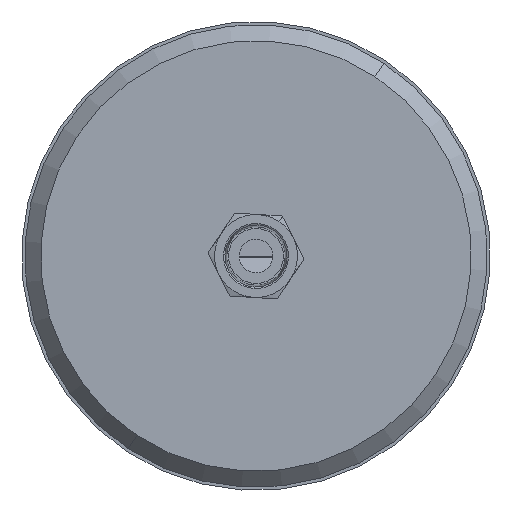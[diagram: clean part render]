
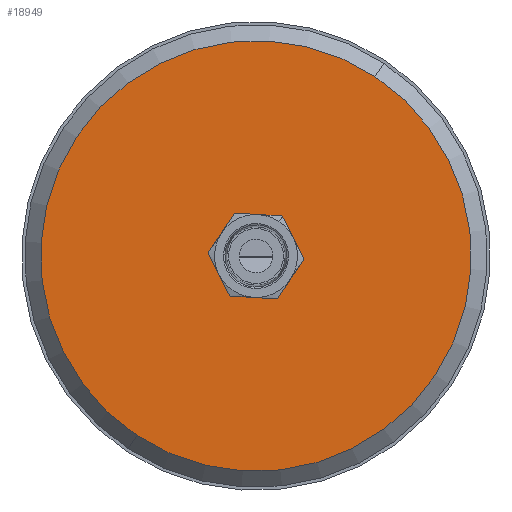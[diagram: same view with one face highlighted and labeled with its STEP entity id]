
A CAD part, front view. The second image highlights one B-rep face of the part: STEP entity #18949.
In plain terms, the highlighted planar face has unit normal (0, -1, 0).
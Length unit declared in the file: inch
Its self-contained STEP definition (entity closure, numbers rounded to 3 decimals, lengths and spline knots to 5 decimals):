
#105 = DIRECTION ( 'NONE',  ( 0., 1., 0. ) ) ;
#511 = FACE_OUTER_BOUND ( 'NONE', #8793, .T. ) ;
#806 = EDGE_CURVE ( 'NONE', #6881, #26879, #1929, .T. ) ;
#1145 = CARTESIAN_POINT ( 'NONE',  ( 1.55757, -3.22375, 0.5553 ) ) ;
#1929 = CIRCLE ( 'NONE', #11953, 0.4615 ) ;
#2160 = EDGE_CURVE ( 'NONE', #26879, #6881, #2899, .T. ) ;
#2267 = DIRECTION ( 'NONE',  ( 0.552, 0., 0.834 ) ) ;
#2899 = CIRCLE ( 'NONE', #19862, 0.4615 ) ;
#4476 = ORIENTED_EDGE ( 'NONE', *, *, #806, .F. ) ;
#5296 = DIRECTION ( 'NONE',  ( 0., -1., 0. ) ) ;
#5338 = AXIS2_PLACEMENT_3D ( 'NONE', #25560, #105, #2267 ) ;
#5415 = EDGE_CURVE ( 'NONE', #10301, #11101, #14854, .T. ) ;
#6881 = VERTEX_POINT ( 'NONE', #18013 ) ;
#7464 = AXIS2_PLACEMENT_3D ( 'NONE', #12090, #7881, #18608 ) ;
#7881 = DIRECTION ( 'NONE',  ( 0., -1., 0. ) ) ;
#8793 = EDGE_LOOP ( 'NONE', ( #22177, #12295 ) ) ;
#9417 = DIRECTION ( 'NONE',  ( -0.552, 0., -0.834 ) ) ;
#10301 = VERTEX_POINT ( 'NONE', #25531 ) ;
#10873 = ORIENTED_EDGE ( 'NONE', *, *, #2160, .F. ) ;
#11101 = VERTEX_POINT ( 'NONE', #20510 ) ;
#11399 = DIRECTION ( 'NONE',  ( 0., -1., 0. ) ) ;
#11548 = AXIS2_PLACEMENT_3D ( 'NONE', #21485, #5296, #9417 ) ;
#11953 = AXIS2_PLACEMENT_3D ( 'NONE', #18748, #16702, #26500 ) ;
#12090 = CARTESIAN_POINT ( 'NONE',  ( 1.8125, -3.22375, 0.94 ) ) ;
#12295 = ORIENTED_EDGE ( 'NONE', *, *, #5415, .T. ) ;
#14854 = CIRCLE ( 'NONE', #7464, 2.755 ) ;
#15165 = EDGE_CURVE ( 'NONE', #11101, #10301, #20206, .T. ) ;
#16702 = DIRECTION ( 'NONE',  ( 0., -1., 0. ) ) ;
#17264 = FACE_BOUND ( 'NONE', #18916, .T. ) ;
#18013 = CARTESIAN_POINT ( 'NONE',  ( 2.06743, -3.22375, 1.3247 ) ) ;
#18608 = DIRECTION ( 'NONE',  ( -0.552, 0., -0.834 ) ) ;
#18748 = CARTESIAN_POINT ( 'NONE',  ( 1.8125, -3.22375, 0.94 ) ) ;
#18761 = PLANE ( 'NONE',  #5338 ) ;
#18916 = EDGE_LOOP ( 'NONE', ( #10873, #4476 ) ) ;
#18949 = ADVANCED_FACE ( 'NONE', ( #17264, #511 ), #18761, .F. ) ;
#19862 = AXIS2_PLACEMENT_3D ( 'NONE', #23615, #11399, #25928 ) ;
#20206 = CIRCLE ( 'NONE', #11548, 2.755 ) ;
#20510 = CARTESIAN_POINT ( 'NONE',  ( 3.33437, -3.22375, 3.23651 ) ) ;
#21485 = CARTESIAN_POINT ( 'NONE',  ( 1.8125, -3.22375, 0.94 ) ) ;
#22177 = ORIENTED_EDGE ( 'NONE', *, *, #15165, .T. ) ;
#23615 = CARTESIAN_POINT ( 'NONE',  ( 1.8125, -3.22375, 0.94 ) ) ;
#25531 = CARTESIAN_POINT ( 'NONE',  ( 0.29063, -3.22375, -1.35651 ) ) ;
#25560 = CARTESIAN_POINT ( 'NONE',  ( 1.4278, -3.22375, 1.19493 ) ) ;
#25928 = DIRECTION ( 'NONE',  ( -0.552, 0., -0.834 ) ) ;
#26500 = DIRECTION ( 'NONE',  ( -0.552, 0., -0.834 ) ) ;
#26879 = VERTEX_POINT ( 'NONE', #1145 ) ;
